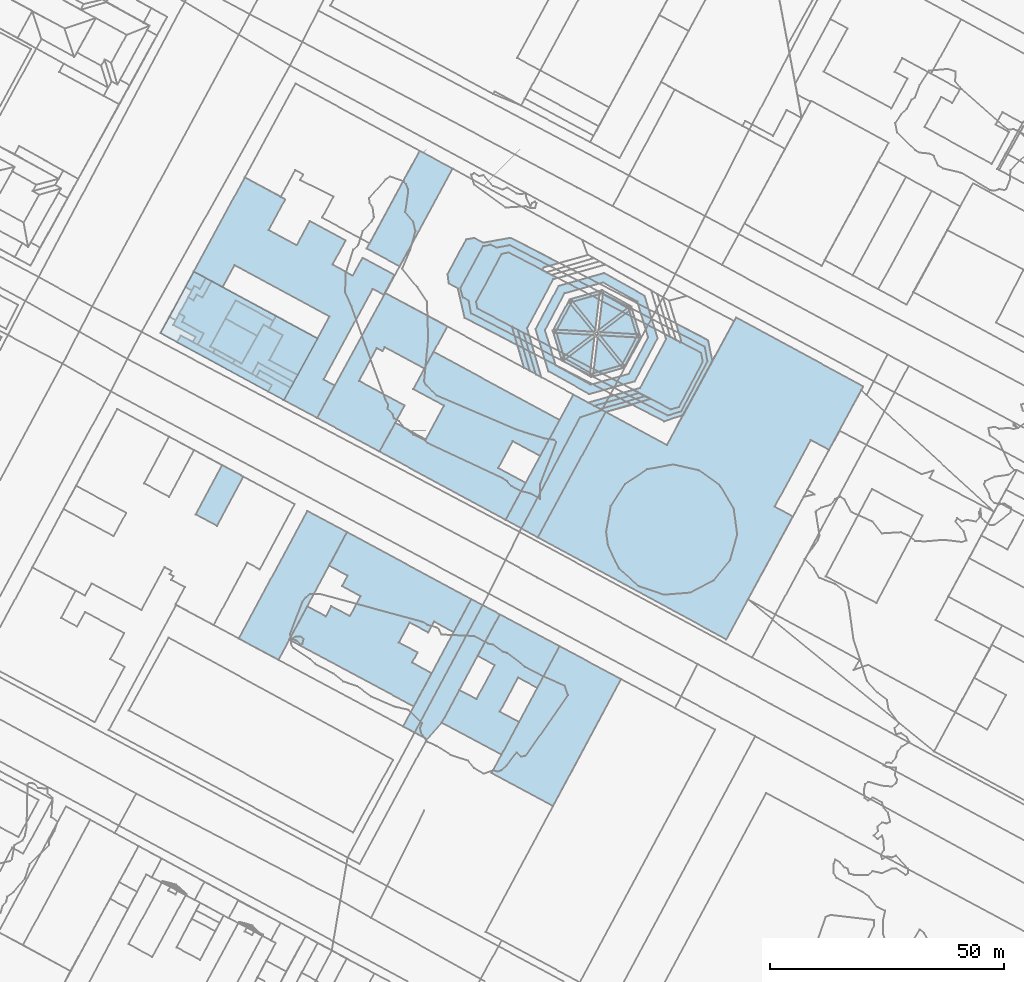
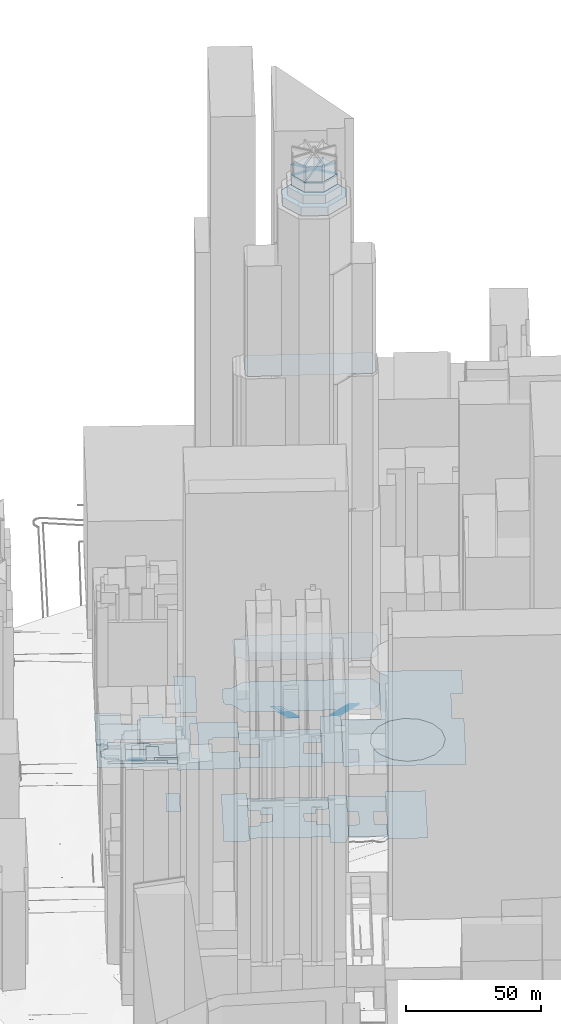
# Not in any storey, part 7 of 80: 41 footings.
"""IFC4 building model written with IfcOpenShell, lengths in metres."""

from ifc_helpers import new_model, si_unit, frame, origin_with_axes, place, context, subcontext, project, spatial, polygons, element, save


model = new_model("IFC4")

# Units and contexts
model_context = context("Model", 3, precision=1e-05, world=origin_with_axes())
body_context = subcontext(model_context, "Body", "Model", "MODEL_VIEW")
ifc_project = project(units=[si_unit("AREAUNIT", "SQUARE_METRE"), si_unit("LENGTHUNIT", "METRE")], contexts=[model_context])

# Sites, building
site_1_placement = place(None, origin_with_axes())
site_1 = spatial("IfcSite", under=ifc_project, at=site_1_placement, Name="Topoexport Site")
site_2_placement = place(site_1_placement, origin_with_axes())
site_2 = spatial("IfcSite", under=site_1, at=site_2_placement, Name="TPX_BATIMENTS")
building_1_placement = place(site_2_placement, frame((183.8820757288, 196.3915098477, 20.8609767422), z_axis=(0.0, 0.0, 1.0), x_axis=(1.0, 0.0, 0.0)))
building_1 = spatial("IfcBuilding", under=site_2, at=building_1_placement, Name="Batiment 41", CompositionType="ELEMENT")

# Footing
footing_1_placement = place(None, frame((183.8820757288, 196.3915098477, 20.8609767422), z_axis=(0.0, 0.0, 1.0), x_axis=(1.0, 0.0, 0.0)))
element("IfcFooting", 1, at=footing_1_placement, inside=building_1, Name="Sol 0", context=body_context, shape_type="Tessellation", body=[
    polygons([(0.0, 0.0, 0.0), (13.0985430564, -7.030868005, 0.0), (27.6239079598, 20.0388061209, 0.0), (14.5169569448, 27.0695500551, 0.0)], [[[2, 1, 4]], [[4, 3, 2]]]),
])

# Building
building_2_placement = place(site_2_placement, frame((164.9927892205, 206.3193932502, 19.6062191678), z_axis=(0.0, 0.0, 1.0), x_axis=(1.0, 0.0, 0.0)))
building_2 = spatial("IfcBuilding", under=site_2, at=building_2_placement, Name="Batiment 71", CompositionType="ELEMENT")

# Footing
footing_2_placement = place(None, frame((164.9927892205, 206.3193932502, 19.6062191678), z_axis=(0.0, 0.0, 1.0), x_axis=(1.0, 0.0, 0.0)))
element("IfcFooting", 2, at=footing_2_placement, inside=building_2, Name="Sol 0", context=body_context, shape_type="Tessellation", body=[
    polygons([(0.0, 0.0, 0.0), (5.0878970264, -2.7053220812, 0.0), (8.2630231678, 0.8287960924, 0.0), (20.6479519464, 23.9544415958, 0.0), (14.5577861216, 27.1921115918, 0.0)], [[[2, 1, 5]], [[4, 3, 2]], [[2, 5, 4]]]),
])

# Building
building_3_placement = place(site_2_placement, frame((173.2558123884, 207.1481893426, 18.8067512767), z_axis=(0.0, 0.0, 1.0), x_axis=(1.0, 0.0, 0.0)))
building_3 = spatial("IfcBuilding", under=site_2, at=building_3_placement, Name="Batiment 72", CompositionType="ELEMENT")

# Footing
footing_3_placement = place(None, frame((173.2558123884, 207.1481893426, 18.8067512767), z_axis=(0.0, 0.0, 1.0), x_axis=(1.0, 0.0, 0.0)))
element("IfcFooting", 3, at=footing_3_placement, inside=building_3, Name="Sol 0", context=body_context, shape_type="Tessellation", body=[
    polygons([(0.0, 0.0, 0.0), (12.733126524, -6.8241916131, 0.0), (16.475942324, 0.1582329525, 0.0), (12.3816260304, 2.3532869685, 0.0), (16.2731366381, 9.6149967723, 0.0), (20.3758905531, 7.4200430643, 0.0), (25.1432202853, 16.3128705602, 0.0), (12.3849287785, 23.1256455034, 0.0), (7.6512209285, 14.2443195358, 0.0), (11.2869121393, 12.2881807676, 0.0), (7.3952691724, 5.0375743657, 0.0), (3.742823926, 6.9824180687, 0.0)], [[[2, 1, 12]], [[4, 3, 2]], [[7, 6, 5]], [[9, 8, 7]], [[2, 12, 11]], [[9, 7, 5]], [[2, 11, 10]], [[10, 9, 5]], [[4, 2, 10]], [[10, 5, 4]]]),
])

# Building
building_4_placement = place(site_2_placement, frame((159.9721915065, 264.969762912, 19.7613864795), z_axis=(0.0, 0.0, 1.0), x_axis=(1.0, 0.0, 0.0)))
building_4 = spatial("IfcBuilding", under=site_2, at=building_4_placement, Name="Batiment 73", CompositionType="ELEMENT")

# Footing
footing_4_placement = place(None, frame((159.9721915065, 264.969762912, 19.7613864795), z_axis=(0.0, 0.0, 1.0), x_axis=(1.0, 0.0, 0.0)))
element("IfcFooting", 4, at=footing_4_placement, inside=building_4, Name="Sol 0", context=body_context, shape_type="Tessellation", body=[
    polygons([(0.0, 0.0, 0.0), (26.8862979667, -14.5533802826, 0.0), (31.1586807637, -6.6544117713, 0.0), (25.3312162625, -3.502510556, 0.0), (28.4385534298, 2.2290739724, 0.0), (34.2660149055, -0.9228247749, 0.0), (38.4143590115, 6.7526611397, 0.0), (11.5365531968, 21.3060973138, 0.0), (7.2227399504, 13.3400447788, 0.0), (13.7552421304, 9.807746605, 0.0), (9.8628457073, 2.6237495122, 0.0), (3.3387795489, 6.1561492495, 0.0)], [[[2, 1, 12]], [[4, 3, 2]], [[7, 6, 5]], [[9, 8, 7]], [[2, 12, 11]], [[9, 7, 5]], [[2, 11, 10]], [[10, 9, 5]], [[4, 2, 10]], [[10, 5, 4]]]),
])

# Building
building_5_placement = place(site_2_placement, frame((140.736043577, 224.855812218, 18.8878227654), z_axis=(0.0, 0.0, 1.0), x_axis=(1.0, 0.0, 0.0)))
building_5 = spatial("IfcBuilding", under=site_2, at=building_5_placement, Name="Batiment 74", CompositionType="ELEMENT")

# Footing
footing_5_placement = place(None, frame((140.736043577, 224.855812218, 18.8878227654), z_axis=(0.0, 0.0, 1.0), x_axis=(1.0, 0.0, 0.0)))
element("IfcFooting", 5, at=footing_5_placement, inside=building_5, Name="Sol 0", context=body_context, shape_type="Tessellation", body=[
    polygons([(0.0, 0.0, 0.0), (26.5536145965, -14.2464559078, 0.0), (30.3624164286, -7.1300469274, 0.0), (26.1831921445, -4.8915607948, 0.0), (27.3481177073, -2.7130804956, 0.0), (23.3727549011, -0.5832457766, 0.0), (25.6615651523, 3.6733168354, 0.0), (29.6369264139, 1.5434833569, 0.0), (30.8679530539, 3.8448574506, 0.0), (35.0471740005, 1.6063739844, 0.0), (38.8145317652, 8.6556926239, 0.0), (12.3027872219, 22.9358968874, 0.0), (8.4690509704, 15.7859003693, 0.0), (12.4614103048, 13.6451532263, 0.0), (11.254926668, 11.4106810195, 0.0), (15.2048295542, 9.2916463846, 0.0), (12.9161442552, 5.023986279, 0.0), (8.9662398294, 7.1430221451, 0.0), (7.801181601, 4.9756455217, 0.0), (3.8172594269, 7.11649328, 0.0)], [[[2, 1, 20]], [[4, 3, 2]], [[6, 5, 4]], [[9, 8, 7]], [[11, 10, 9]], [[13, 12, 11]], [[16, 15, 14]], [[19, 18, 17]], [[2, 20, 19]], [[6, 4, 2]], [[11, 9, 7]], [[14, 13, 11]], [[2, 19, 17]], [[14, 11, 7]], [[2, 17, 16]], [[14, 7, 6]], [[6, 2, 16]], [[16, 14, 6]]]),
])

# Building
building_6_placement = place(site_2_placement, frame((129.9536213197, 225.0858006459, 21.0283081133), z_axis=(0.0, 0.0, 1.0), x_axis=(1.0, 0.0, 0.0)))
building_6 = spatial("IfcBuilding", under=site_2, at=building_6_placement, Name="Batiment 75", CompositionType="ELEMENT")

# Footing
footing_6_placement = place(None, frame((129.9536213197, 225.0858006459, 21.0283081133), z_axis=(0.0, 0.0, 1.0), x_axis=(1.0, 0.0, 0.0)))
element("IfcFooting", 6, at=footing_6_placement, inside=building_6, Name="Sol 0", context=body_context, shape_type="Tessellation", body=[
    polygons([(0.0, 0.0, 0.0), (8.4687912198, -4.5312400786, 0.0), (23.0852094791, 22.7059084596, 0.0), (14.6163103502, 27.2482324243, 0.0)], [[[2, 1, 4]], [[4, 3, 2]]]),
])

# Building
building_7_placement = place(site_2_placement, frame((120.7569680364, 251.5799535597, 21.6785385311), z_axis=(0.0, 0.0, 1.0), x_axis=(1.0, 0.0, 0.0)))
building_7 = spatial("IfcBuilding", under=site_2, at=building_7_placement, Name="Batiment 79", CompositionType="ELEMENT")

# Footing
footing_7_placement = place(None, frame((120.7569680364, 251.5799535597, 21.6785385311), z_axis=(0.0, 0.0, 1.0), x_axis=(1.0, 0.0, 0.0)))
element("IfcFooting", 7, at=footing_7_placement, inside=building_7, Name="Sol 0", context=body_context, shape_type="Tessellation", body=[
    polygons([(0.0, 0.0, 0.0), (4.5360060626, -2.4342069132, 0.0), (10.1793614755, 8.0785806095, 0.0), (5.6434887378, 10.5016832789, 0.0)], [[[2, 1, 4]], [[4, 3, 2]]]),
])

# Building
building_8_placement = place(site_2_placement, frame((133.701994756, 280.9958944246, 22.2284312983), z_axis=(0.0, 0.0, 1.0), x_axis=(1.0, 0.0, 0.0)))
building_8 = spatial("IfcBuilding", under=site_2, at=building_8_placement, Name="Batiment 80", CompositionType="ELEMENT")

# Footing
footing_8_placement = place(None, frame((133.701994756, 280.9958944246, 22.2284312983), z_axis=(0.0, 0.0, 1.0), x_axis=(1.0, 0.0, 0.0)))
element("IfcFooting", 8, at=footing_8_placement, inside=building_8, Name="Sol 0", context=body_context, shape_type="Tessellation", body=[
    polygons([(0.0, 0.0, 0.0), (3.3046733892, -1.8045757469, 0.0), (2.5274119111, -3.2013890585, 0.0), (5.8745466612, -5.0276748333, 0.0), (7.3210219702, -2.3796322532, 0.0), (0.686095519, 1.2514244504, 0.0)], [[[2, 1, 6]], [[4, 3, 2]], [[2, 6, 5]], [[5, 4, 2]]]),
])

# Building
building_9_placement = place(site_2_placement, frame((132.7675039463, 281.5068423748, 22.0591971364), z_axis=(0.0, 0.0, 1.0), x_axis=(1.0, 0.0, 0.0)))
building_9 = spatial("IfcBuilding", under=site_2, at=building_9_placement, Name="Batiment 81", CompositionType="ELEMENT")

# Footing
footing_9_placement = place(None, frame((132.7675039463, 281.5068423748, 22.0591971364), z_axis=(0.0, 0.0, 1.0), x_axis=(1.0, 0.0, 0.0)))
element("IfcFooting", 9, at=footing_9_placement, inside=building_9, Name="Sol 0", context=body_context, shape_type="Tessellation", body=[
    polygons([(0.0, 0.0, 0.0), (0.9344908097, -0.5109479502, 0.0), (1.6205863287, 0.7404765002, 0.0), (8.2555127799, -2.8905802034, 0.0), (8.9001799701, -1.7062499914, 0.0), (1.3392038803, 2.43585198, 0.0)], [[[2, 1, 6]], [[5, 4, 3]], [[3, 2, 6]], [[6, 5, 3]]]),
])

# Building
building_10_placement = place(site_2_placement, frame((136.4219742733, 284.4691979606, 20.8510870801), z_axis=(0.0, 0.0, 1.0), x_axis=(1.0, 0.0, 0.0)))
building_10 = spatial("IfcBuilding", under=site_2, at=building_10_placement, Name="Batiment 82", CompositionType="ELEMENT")

# Footing
footing_10_placement = place(None, frame((136.4219742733, 284.4691979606, 20.8510870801), z_axis=(0.0, 0.0, 1.0), x_axis=(1.0, 0.0, 0.0)))
element("IfcFooting", 10, at=footing_10_placement, inside=building_10, Name="Sol 0", context=body_context, shape_type="Tessellation", body=[
    polygons([(0.0, 0.0, 0.0), (6.088815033, -3.1266972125, 0.0), (10.3290123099, 4.6386442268, 0.0), (1.4688163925, 9.4428815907, 0.0), (0.063512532, 6.8841359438, 0.0), (2.9178819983, 5.3296808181, 0.0)], [[[2, 1, 6]], [[4, 3, 2]], [[6, 5, 4]], [[4, 2, 6]]]),
])

# Building
building_11_placement = place(site_2_placement, frame((128.6389686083, 283.7459380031, 21.7688219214), z_axis=(0.0, 0.0, 1.0), x_axis=(1.0, 0.0, 0.0)))
building_11 = spatial("IfcBuilding", under=site_2, at=building_11_placement, Name="Batiment 83", CompositionType="ELEMENT")

# Footing
footing_11_placement = place(None, frame((128.6389686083, 283.7459380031, 21.7688219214), z_axis=(0.0, 0.0, 1.0), x_axis=(1.0, 0.0, 0.0)))
element("IfcFooting", 11, at=footing_11_placement, inside=building_11, Name="Sol 0", context=body_context, shape_type="Tessellation", body=[
    polygons([(0.0, 0.0, 0.0), (4.128535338, -2.2390956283, 0.0), (5.4677392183, 0.1967563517, 0.0), (13.0287153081, -3.9453456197, 0.0), (13.8718206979, -2.403437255, 0.0), (7.7830056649, 0.7232599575, 0.0), (10.7008876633, 6.0529407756, 0.0), (6.5976755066, 8.2923269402, 0.0), (1.9668380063, 0.0006475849, 0.0), (0.4547989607, 0.8157486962, 0.0)], [[[2, 1, 10]], [[5, 4, 3]], [[8, 7, 6]], [[2, 10, 9]], [[6, 5, 3]], [[9, 8, 6]], [[3, 2, 9]], [[9, 6, 3]]]),
])

# Building
building_12_placement = place(site_2_placement, frame((127.1263243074, 293.3318134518, 21.914507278), z_axis=(0.0, 0.0, 1.0), x_axis=(1.0, 0.0, 0.0)))
building_12 = spatial("IfcBuilding", under=site_2, at=building_12_placement, Name="Batiment 84", CompositionType="ELEMENT")

# Footing
footing_12_placement = place(None, frame((127.1263243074, 293.3318134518, 21.914507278), z_axis=(0.0, 0.0, 1.0), x_axis=(1.0, 0.0, 0.0)))
element("IfcFooting", 12, at=footing_12_placement, inside=building_12, Name="Sol 0", context=body_context, shape_type="Tessellation", body=[
    polygons([(0.0, 0.0, 0.0), (6.7281427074, -3.6632865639, 0.0), (8.1103198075, -1.2935485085, 0.0), (9.3591624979, -1.9784795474, 0.0), (10.1940852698, -0.4588713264, 0.0), (2.1408822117, 3.9106630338, 0.0)], [[[2, 1, 6]], [[5, 4, 3]], [[3, 2, 6]], [[6, 5, 3]]]),
])

# Building
building_13_placement = place(site_2_placement, frame((113.2505831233, 290.2618220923, 20.8510870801), z_axis=(0.0, 0.0, 1.0), x_axis=(1.0, 0.0, 0.0)))
building_13 = spatial("IfcBuilding", under=site_2, at=building_13_placement, Name="Batiment 85", CompositionType="ELEMENT")

# Footing
footing_13_placement = place(None, frame((113.2505831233, 290.2618220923, 20.8510870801), z_axis=(0.0, 0.0, 1.0), x_axis=(1.0, 0.0, 0.0)))
element("IfcFooting", 13, at=footing_13_placement, inside=building_13, Name="Sol 0", context=body_context, shape_type="Tessellation", body=[
    polygons([(0.0, 0.0, 0.0), (26.3259582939, -14.293602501, 0.0), (33.5004034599, -1.1539799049, 0.0), (7.1070834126, 13.1277116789, 0.0)], [[[2, 1, 4]], [[4, 3, 2]]]),
])

# Building
building_14_placement = place(site_2_placement, frame((123.8777892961, 287.3987743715, 22.3844927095), z_axis=(0.0, 0.0, 1.0), x_axis=(1.0, 0.0, 0.0)))
building_14 = spatial("IfcBuilding", under=site_2, at=building_14_placement, Name="Batiment 86", CompositionType="ELEMENT")

# Footing
footing_14_placement = place(None, frame((123.8777892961, 287.3987743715, 22.3844927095), z_axis=(0.0, 0.0, 1.0), x_axis=(1.0, 0.0, 0.0)))
element("IfcFooting", 14, at=footing_14_placement, inside=building_14, Name="Sol 0", context=body_context, shape_type="Tessellation", body=[
    polygons([(0.0, 0.0, 0.0), (6.7280173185, -3.6521887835, 0.0), (9.9766777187, 2.2697525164, 0.0), (3.2485350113, 5.9330390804, 0.0)], [[[2, 1, 4]], [[4, 3, 2]]]),
])

# Building
building_15_placement = place(site_2_placement, frame((124.4423978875, 286.0286544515, 23.0098590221), z_axis=(0.0, 0.0, 1.0), x_axis=(1.0, 0.0, 0.0)))
building_15 = spatial("IfcBuilding", under=site_2, at=building_15_placement, Name="Batiment 87", CompositionType="ELEMENT")

# Footing
footing_15_placement = place(None, frame((124.4423978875, 286.0286544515, 23.0098590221), z_axis=(0.0, 0.0, 1.0), x_axis=(1.0, 0.0, 0.0)))
element("IfcFooting", 15, at=footing_15_placement, inside=building_15, Name="Sol 0", context=body_context, shape_type="Tessellation", body=[
    polygons([(0.0, 0.0, 0.0), (4.1965707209, -2.2827164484, 0.0), (4.6513696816, -1.4669677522, 0.0), (0.4463590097, 0.8156503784, 0.0)], [[[2, 1, 4]], [[4, 3, 2]]]),
])

# Building
building_16_placement = place(site_2_placement, frame((116.8013041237, 288.3490732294, 22.6187660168), z_axis=(0.0, 0.0, 1.0), x_axis=(1.0, 0.0, 0.0)))
building_16 = spatial("IfcBuilding", under=site_2, at=building_16_placement, Name="Batiment 88", CompositionType="ELEMENT")

# Footing
footing_16_placement = place(None, frame((116.8013041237, 288.3490732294, 22.6187660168), z_axis=(0.0, 0.0, 1.0), x_axis=(1.0, 0.0, 0.0)))
element("IfcFooting", 16, at=footing_16_placement, inside=building_16, Name="Sol 0", context=body_context, shape_type="Tessellation", body=[
    polygons([(0.0, 0.0, 0.0), (19.4281025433, -10.5545678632, 0.0), (20.2053640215, -9.1577545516, 0.0), (0.7771349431, 1.4079120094, 0.0)], [[[2, 1, 4]], [[4, 3, 2]]]),
])

# Building
building_17_placement = place(site_2_placement, frame((115.9822453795, 292.0033020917, 23.3452877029), z_axis=(0.0, 0.0, 1.0), x_axis=(1.0, 0.0, 0.0)))
building_17 = spatial("IfcBuilding", under=site_2, at=building_17_placement, Name="Batiment 90", CompositionType="ELEMENT")

# Footing
footing_17_placement = place(None, frame((115.9822453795, 292.0033020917, 23.3452877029), z_axis=(0.0, 0.0, 1.0), x_axis=(1.0, 0.0, 0.0)))
element("IfcFooting", 17, at=footing_17_placement, inside=building_17, Name="Sol 0", context=body_context, shape_type="Tessellation", body=[
    polygons([(0.0, 0.0, 0.0), (4.7571032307, -2.5759699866, 0.0), (4.1786660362, -3.648506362, 0.0), (5.1896332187, -4.2029764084, 0.0), (6.4789719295, -1.8343194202, 0.0), (1.8832649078, 0.6547063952, 0.0), (2.4784536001, 1.7385394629, 0.0), (1.2720721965, 2.4017622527, 0.0)], [[[4, 3, 2]], [[8, 7, 6]], [[5, 4, 2]], [[1, 8, 6]], [[5, 2, 1]], [[1, 6, 5]]]),
])

# Building
building_18_placement = place(site_2_placement, frame((117.2543175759, 294.4050643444, 21.8182038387), z_axis=(0.0, 0.0, 1.0), x_axis=(1.0, 0.0, 0.0)))
building_18 = spatial("IfcBuilding", under=site_2, at=building_18_placement, Name="Batiment 92", CompositionType="ELEMENT")

# Footing
footing_18_placement = place(None, frame((117.2543175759, 294.4050643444, 21.8182038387), z_axis=(0.0, 0.0, 1.0), x_axis=(1.0, 0.0, 0.0)))
element("IfcFooting", 18, at=footing_18_placement, inside=building_18, Name="Sol 0", context=body_context, shape_type="Tessellation", body=[
    polygons([(0.0, 0.0, 0.0), (1.2063814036, -0.6632227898, 0.0), (0.6111927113, -1.7470558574, 0.0), (5.206899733, -4.2360816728, 0.0), (3.9175610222, -6.6047386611, 0.0), (7.1880803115, -8.3764098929, 0.0), (7.6344393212, -7.5607595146, 0.0), (6.6234717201, -7.0062899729, 0.0), (12.0128889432, 2.8374121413, 0.0), (20.0660920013, -1.532122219, 0.0), (20.6364730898, -0.4929847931, 0.0), (6.8834997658, 6.9411625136, 0.0), (4.9492373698, 3.4103780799, 0.0), (3.7259757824, 4.073404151, 0.0), (3.0481909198, 2.8331797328, 0.0), (1.8928382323, 3.4636882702, 0.0)], [[[2, 1, 16]], [[4, 3, 2]], [[6, 5, 4]], [[8, 7, 6]], [[11, 10, 9]], [[15, 14, 13]], [[2, 16, 15]], [[8, 6, 4]], [[12, 11, 9]], [[2, 15, 13]], [[9, 8, 4]], [[13, 12, 9]], [[4, 2, 13]], [[13, 9, 4]]]),
])

# Building
building_19_placement = place(site_2_placement, frame((120.3576665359, 303.3895337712, 19.1918452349), z_axis=(0.0, 0.0, 1.0), x_axis=(1.0, 0.0, 0.0)))
building_19 = spatial("IfcBuilding", under=site_2, at=building_19_placement, Name="Batiment 93", CompositionType="ELEMENT")

# Footing
footing_19_placement = place(None, frame((120.3576665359, 303.3895337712, 19.1918452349), z_axis=(0.0, 0.0, 1.0), x_axis=(1.0, 0.0, 0.0)))
element("IfcFooting", 19, at=footing_19_placement, inside=building_19, Name="Sol 0", context=body_context, shape_type="Tessellation", body=[
    polygons([(0.0, 0.0, 0.0), (6.1586360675, -3.3257392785, 0.0), (8.6958773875, 1.3444821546, 0.0), (28.9305528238, -9.6114631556, 0.0), (19.2188748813, -27.4213141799, 0.0), (26.294638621, -31.2137773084, 0.0), (30.029914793, -24.3091752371, 0.0), (27.6853086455, -23.0374588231, 0.0), (38.1557868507, -3.6977675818, 0.0), (40.5002598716, -4.9583798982, 0.0), (42.7894344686, -0.7351197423, 0.0), (36.0020774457, 2.9385544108, 0.0), (33.927701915, -0.8825259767, 0.0), (29.5868752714, 1.4651129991, 0.0), (32.3883820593, 6.6380157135, 0.0), (24.7261469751, 10.7789291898, 0.0), (21.9330768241, 5.6061274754, 0.0), (15.9697266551, 8.8342025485, 0.0), (19.5314868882, 15.4148184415, 0.0), (10.8837545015, 20.0994069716, 0.0)], [[[2, 1, 20]], [[6, 5, 4]], [[8, 7, 6]], [[11, 10, 9]], [[13, 12, 11]], [[16, 15, 14]], [[20, 19, 18]], [[3, 2, 20]], [[8, 6, 4]], [[13, 11, 9]], [[17, 16, 14]], [[3, 20, 18]], [[9, 8, 4]], [[14, 13, 9]], [[3, 18, 17]], [[9, 4, 3]], [[17, 14, 9]], [[9, 3, 17]]]),
])

# Building
building_20_placement = place(site_2_placement, frame((146.6523051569, 272.1757564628, 19.3891240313), z_axis=(0.0, 0.0, 1.0), x_axis=(1.0, 0.0, 0.0)))
building_20 = spatial("IfcBuilding", under=site_2, at=building_20_placement, Name="Batiment 94", CompositionType="ELEMENT")

# Footing
footing_20_placement = place(None, frame((146.6523051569, 272.1757564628, 19.3891240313), z_axis=(0.0, 0.0, 1.0), x_axis=(1.0, 0.0, 0.0)))
element("IfcFooting", 20, at=footing_20_placement, inside=building_20, Name="Sol 0", context=body_context, shape_type="Tessellation", body=[
    polygons([(0.0, 0.0, 0.0), (13.3198863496, -7.2059935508, 0.0), (18.6586321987, 2.6371463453, 0.0), (8.931952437, 7.9086886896, 0.0), (12.7252657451, 14.9027882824, 0.0), (13.982422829, 14.2290601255, 0.0), (14.4368310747, 15.0781131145, 0.0), (22.9062179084, 10.4914052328, 0.0), (27.7984552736, 19.5299999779, 0.0), (14.5389731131, 26.6256464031, 0.0)], [[[3, 2, 1]], [[7, 6, 5]], [[9, 8, 7]], [[4, 3, 1]], [[9, 7, 5]], [[4, 1, 10]], [[10, 9, 5]], [[5, 4, 10]]]),
])

# Building
building_21_placement = place(site_2_placement, frame((190.7505875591, 290.2965312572, 21.0925550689), z_axis=(0.0, 0.0, 1.0), x_axis=(1.0, 0.0, 0.0)))
building_21 = spatial("IfcBuilding", under=site_2, at=building_21_placement, Name="Batiment 95", CompositionType="ELEMENT")

# Footing
footing_21_placement = place(None, frame((190.7505875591, 290.2965312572, 21.0925550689), z_axis=(0.0, 0.0, 1.0), x_axis=(1.0, 0.0, 0.0)))
element("IfcFooting", 21, at=footing_21_placement, inside=building_21, Name="Sol 0", context=body_context, shape_type="Tessellation", body=[
    polygons([(0.0, 0.0, 0.0), (2.5927444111, -8.8183526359, 0.0), (3.7905656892, -9.4705605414, 0.0), (1.2400209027, -0.6517176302, 0.0)], [[[2, 1, 4]], [[4, 3, 2]]]),
])

# Building
building_22_placement = place(site_2_placement, frame((189.5021266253, 290.948150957, 21.1265616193), z_axis=(0.0, 0.0, 1.0), x_axis=(1.0, 0.0, 0.0)))
building_22 = spatial("IfcBuilding", under=site_2, at=building_22_placement, Name="Batiment 96", CompositionType="ELEMENT")

# Footing
footing_22_placement = place(None, frame((189.5021266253, 290.948150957, 21.1265616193), z_axis=(0.0, 0.0, 1.0), x_axis=(1.0, 0.0, 0.0)))
element("IfcFooting", 22, at=footing_22_placement, inside=building_22, Name="Sol 0", context=body_context, shape_type="Tessellation", body=[
    polygons([(0.0, 0.0, 0.0), (2.5839152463, -8.7851489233, 0.0), (3.8412053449, -9.4699723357, 0.0), (1.2484609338, -0.6516196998, 0.0)], [[[2, 1, 4]], [[4, 3, 2]]]),
])

# Building
building_23_placement = place(site_2_placement, frame((188.2449675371, 291.6218742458, 21.1651408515), z_axis=(0.0, 0.0, 1.0), x_axis=(1.0, 0.0, 0.0)))
building_23 = spatial("IfcBuilding", under=site_2, at=building_23_placement, Name="Batiment 97", CompositionType="ELEMENT")

# Footing
footing_23_placement = place(None, frame((188.2449675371, 291.6218742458, 21.1651408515), z_axis=(0.0, 0.0, 1.0), x_axis=(1.0, 0.0, 0.0)))
element("IfcFooting", 23, at=footing_23_placement, inside=building_23, Name="Sol 0", context=body_context, shape_type="Tessellation", body=[
    polygons([(0.0, 0.0, 0.0), (2.5839135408, -8.7851493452, 0.0), (3.8410743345, -9.4588722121, 0.0), (1.2571590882, -0.6737232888, 0.0)], [[[2, 1, 4]], [[4, 3, 2]]]),
])

# Building
building_24_placement = place(site_2_placement, frame((204.4971683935, 275.4350208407, 21.6849039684), z_axis=(0.0, 0.0, 1.0), x_axis=(1.0, 0.0, 0.0)))
building_24 = spatial("IfcBuilding", under=site_2, at=building_24_placement, Name="Batiment 104", CompositionType="ELEMENT")

# Footing
footing_24_placement = place(None, frame((204.4971683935, 275.4350208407, 21.6849039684), z_axis=(0.0, 0.0, 1.0), x_axis=(1.0, 0.0, 0.0)))
element("IfcFooting", 24, at=footing_24_placement, inside=building_24, Name="Sol 0", context=body_context, shape_type="Tessellation", body=[
    polygons([(0.0, 0.0, 0.0), (1.2741729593, -0.6846250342, 0.0), (10.7814669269, 2.0238691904, 0.0), (9.490542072, 2.6971955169, 0.0)], [[[2, 1, 4]], [[4, 3, 2]]]),
])

# Building
building_25_placement = place(site_2_placement, frame((205.7713413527, 274.7503958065, 21.7965636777), z_axis=(0.0, 0.0, 1.0), x_axis=(1.0, 0.0, 0.0)))
building_25 = spatial("IfcBuilding", under=site_2, at=building_25_placement, Name="Batiment 105", CompositionType="ELEMENT")

# Footing
footing_25_placement = place(None, frame((205.7713413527, 274.7503958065, 21.7965636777), z_axis=(0.0, 0.0, 1.0), x_axis=(1.0, 0.0, 0.0)))
element("IfcFooting", 25, at=footing_25_placement, inside=building_25, Name="Sol 0", context=body_context, shape_type="Tessellation", body=[
    polygons([(0.0, 0.0, 0.0), (1.2572926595, -0.6848211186, 0.0), (10.7897787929, 2.0350699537, 0.0), (9.5072939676, 2.7084942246, 0.0)], [[[2, 1, 4]], [[4, 3, 2]]]),
])

# Building
building_26_placement = place(site_2_placement, frame((207.0286340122, 274.0655746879, 21.8143831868), z_axis=(0.0, 0.0, 1.0), x_axis=(1.0, 0.0, 0.0)))
building_26 = spatial("IfcBuilding", under=site_2, at=building_26_placement, Name="Batiment 106", CompositionType="ELEMENT")

# Footing
footing_26_placement = place(None, frame((207.0286340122, 274.0655746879, 21.8143831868), z_axis=(0.0, 0.0, 1.0), x_axis=(1.0, 0.0, 0.0)))
element("IfcFooting", 26, at=footing_26_placement, inside=building_26, Name="Sol 0", context=body_context, shape_type="Tessellation", body=[
    polygons([(0.0, 0.0, 0.0), (1.1722447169, -0.630298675, 0.0), (10.6620135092, 2.1335061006, 0.0), (9.5324861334, 2.7198910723, 0.0)], [[[2, 1, 4]], [[4, 3, 2]]]),
])

# Building
building_27_placement = place(site_2_placement, frame((193.2816809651, 291.1364254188, 247.2874462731), z_axis=(0.0, 0.0, 1.0), x_axis=(1.0, 0.0, 0.0)))
building_27 = spatial("IfcBuilding", under=site_2, at=building_27_placement, Name="Batiment 108", CompositionType="ELEMENT")

# Footing
footing_27_placement = place(None, frame((193.2816809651, 291.1364254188, 247.2874462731), z_axis=(0.0, 0.0, 1.0), x_axis=(1.0, 0.0, 0.0)))
element("IfcFooting", 27, at=footing_27_placement, inside=building_27, Name="Sol 0", context=body_context, shape_type="Tessellation", body=[
    polygons([(0.0, 0.0, 0.0), (2.7471243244, -9.0274996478, 0.0), (11.4476540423, -13.8890368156, 0.0), (21.1319324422, -11.1562809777, 0.0), (26.0391907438, -1.9620488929, 0.0), (23.2920400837, 7.0654426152, 0.0), (14.5913971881, 11.9380665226, 0.0), (4.9071471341, 9.2053187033, 0.0)], [[[2, 1, 8]], [[4, 3, 2]], [[6, 5, 4]], [[8, 7, 6]], [[4, 2, 8]], [[8, 6, 4]]]),
])

# Building
building_28_placement = place(site_2_placement, frame((200.4835497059, 296.8268073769, 260.0739856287), z_axis=(0.0, 0.0, 1.0), x_axis=(1.0, 0.0, 0.0)))
building_28 = spatial("IfcBuilding", under=site_2, at=building_28_placement, Name="Batiment 109", CompositionType="ELEMENT")

# Footing
footing_28_placement = place(None, frame((200.4835497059, 296.8268073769, 260.0739856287), z_axis=(0.0, 0.0, 1.0), x_axis=(1.0, 0.0, 0.0)))
element("IfcFooting", 28, at=footing_28_placement, inside=building_28, Name="Sol 0", context=body_context, shape_type="Tessellation", body=[
    polygons([(0.0, 0.0, 0.0), (11.1849786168, -13.8032627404, 0.0), (11.7370008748, -13.3638547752, 0.0), (0.5434525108, 0.450409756, 0.0)], [[[2, 1, 4]], [[4, 3, 2]]]),
])

# Building
building_29_placement = place(site_2_placement, frame((198.9155746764, 285.0290795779, 259.6639688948), z_axis=(0.0, 0.0, 1.0), x_axis=(1.0, 0.0, 0.0)))
building_29 = spatial("IfcBuilding", under=site_2, at=building_29_placement, Name="Batiment 110", CompositionType="ELEMENT")

# Footing
footing_29_placement = place(None, frame((198.9155746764, 285.0290795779, 259.6639688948), z_axis=(0.0, 0.0, 1.0), x_axis=(1.0, 0.0, 0.0)))
element("IfcFooting", 29, at=footing_29_placement, inside=building_29, Name="Sol 0", context=body_context, shape_type="Tessellation", body=[
    polygons([(0.0, 0.0, 0.0), (0.4284669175, -0.5501306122, 0.0), (14.5773925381, 10.2392690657, 0.0), (14.1487960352, 10.8004996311, 0.0)], [[[2, 1, 4]], [[4, 3, 2]]]),
])

# Building
building_30_placement = place(site_2_placement, frame((197.6677213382, 290.7100275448, 259.7077898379), z_axis=(0.0, 0.0, 1.0), x_axis=(1.0, 0.0, 0.0)))
building_30 = spatial("IfcBuilding", under=site_2, at=building_30_placement, Name="Batiment 111", CompositionType="ELEMENT")

# Footing
footing_30_placement = place(None, frame((197.6677213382, 290.7100275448, 259.7077898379), z_axis=(0.0, 0.0, 1.0), x_axis=(1.0, 0.0, 0.0)))
element("IfcFooting", 30, at=footing_30_placement, inside=building_30, Name="Sol 0", context=body_context, shape_type="Tessellation", body=[
    polygons([(0.0, 0.0, 0.0), (1.7900951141, -5.8522788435, 0.0), (7.5763793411, -9.0934656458, 0.0), (13.9625274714, -7.2983490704, 0.0), (17.2671074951, -1.1092659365, 0.0), (15.47687195, 4.7541101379, 0.0), (9.6905946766, 7.9952907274, 0.0), (3.3045880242, 6.1890768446, 0.0)], [[[2, 1, 8]], [[4, 3, 2]], [[6, 5, 4]], [[8, 7, 6]], [[4, 2, 8]], [[8, 6, 4]]]),
])

# Building
building_31_placement = place(site_2_placement, frame((197.3599497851, 290.3178698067, 260.1111568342), z_axis=(0.0, 0.0, 1.0), x_axis=(1.0, 0.0, 0.0)))
building_31 = spatial("IfcBuilding", under=site_2, at=building_31_placement, Name="Batiment 112", CompositionType="ELEMENT")

# Footing
footing_31_placement = place(None, frame((197.3599497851, 290.3178698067, 260.1111568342), z_axis=(0.0, 0.0, 1.0), x_axis=(1.0, 0.0, 0.0)))
element("IfcFooting", 31, at=footing_31_placement, inside=building_31, Name="Sol 0", context=body_context, shape_type="Tessellation", body=[
    polygons([(0.0, 0.0, 0.0), (17.7976823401, -1.0031756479, 0.0), (17.8317499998, -0.3033371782, 0.0), (0.0425095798, 0.6999365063, 0.0)], [[[2, 1, 4]], [[4, 3, 2]]]),
])

# Building
building_32_placement = place(site_2_placement, frame((196.9493964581, 290.7793907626, 255.631798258), z_axis=(0.0, 0.0, 1.0), x_axis=(1.0, 0.0, 0.0)))
building_32 = spatial("IfcBuilding", under=site_2, at=building_32_placement, Name="Batiment 113", CompositionType="ELEMENT")

# Footing
footing_32_placement = place(None, frame((196.9493964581, 290.7793907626, 255.631798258), z_axis=(0.0, 0.0, 1.0), x_axis=(1.0, 0.0, 0.0)))
element("IfcFooting", 32, at=footing_32_placement, inside=building_32, Name="Sol 0", context=body_context, shape_type="Tessellation", body=[
    polygons([(0.0, 0.0, 0.0), (1.9480859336, -6.3722479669, 0.0), (8.2102521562, -9.8854576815, 0.0), (15.134770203, -7.9286484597, 0.0), (18.7037575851, -1.2479906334, 0.0), (16.7555291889, 5.1353539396, 0.0), (10.4935002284, 8.6374556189, 0.0), (3.5688676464, 6.6917512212, 0.0)], [[[2, 1, 8]], [[4, 3, 2]], [[6, 5, 4]], [[8, 7, 6]], [[4, 2, 8]], [[8, 6, 4]]]),
])

# Building
building_33_placement = place(site_2_placement, frame((174.515196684, 302.8642732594, 21.3701181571), z_axis=(0.0, 0.0, 1.0), x_axis=(1.0, 0.0, 0.0)))
building_33 = spatial("IfcBuilding", under=site_2, at=building_33_placement, Name="Batiment 118", CompositionType="ELEMENT")

# Footing
footing_33_placement = place(None, frame((174.515196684, 302.8642732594, 21.3701181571), z_axis=(0.0, 0.0, 1.0), x_axis=(1.0, 0.0, 0.0)))
element("IfcFooting", 33, at=footing_33_placement, inside=building_33, Name="Sol 0", context=body_context, shape_type="Tessellation", body=[
    polygons([(0.0, 0.0, 0.0), (0.2596837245, -2.0064896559, 0.0), (2.2055322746, -3.1051971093, 0.0), (3.6457642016, -9.3612290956, 0.0), (46.1429906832, -31.4157509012, 0.0), (50.1375301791, -30.1147343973, 0.0), (56.4684852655, -18.4947444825, 0.0), (55.6076025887, -14.152673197, 0.0), (13.4416773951, 7.7280088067, 0.0), (7.5533148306, 6.6825504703, 0.0), (5.6591417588, 7.693039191, 0.0), (3.9490017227, 7.3956015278, 0.0)], [[[2, 1, 12]], [[5, 4, 3]], [[7, 6, 5]], [[9, 8, 7]], [[12, 11, 10]], [[3, 2, 12]], [[7, 5, 3]], [[10, 9, 7]], [[3, 12, 10]], [[10, 7, 3]]]),
])

# Building
building_34_placement = place(site_2_placement, frame((177.2431205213, 299.8428648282, 43.5388270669), z_axis=(0.0, 0.0, 1.0), x_axis=(1.0, 0.0, 0.0)))
building_34 = spatial("IfcBuilding", under=site_2, at=building_34_placement, Name="Batiment 119", CompositionType="ELEMENT")

# Footing
footing_34_placement = place(None, frame((177.2431205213, 299.8428648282, 43.5388270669), z_axis=(0.0, 0.0, 1.0), x_axis=(1.0, 0.0, 0.0)))
element("IfcFooting", 34, at=footing_34_placement, inside=building_34, Name="Sol 0", context=body_context, shape_type="Tessellation", body=[
    polygons([(0.0, 0.0, 0.0), (0.5291270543, -1.9478459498, 0.0), (1.7866712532, -2.6548732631, 0.0), (2.2654927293, -5.358257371, 0.0), (44.1689292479, -27.1643259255, 0.0), (47.0793212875, -26.2756005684, 0.0), (52.7120119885, -15.5852207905, 0.0), (52.1358092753, -12.4943931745, 0.0), (10.4871850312, 9.1813647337, 0.0), (7.7499180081, 8.6499384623, 0.0), (6.3919957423, 9.2780819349, 0.0), (4.8257265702, 8.9490093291, 0.0)], [[[2, 1, 12]], [[5, 4, 3]], [[7, 6, 5]], [[9, 8, 7]], [[12, 11, 10]], [[3, 2, 12]], [[7, 5, 3]], [[10, 9, 7]], [[3, 12, 10]], [[10, 7, 3]]]),
])

# Building
building_35_placement = place(site_2_placement, frame((180.6026452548, 296.9509249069, 171.5778831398), z_axis=(0.0, 0.0, 1.0), x_axis=(1.0, 0.0, 0.0)))
building_35 = spatial("IfcBuilding", under=site_2, at=building_35_placement, Name="Batiment 120", CompositionType="ELEMENT")

# Footing
footing_35_placement = place(None, frame((180.6026452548, 296.9509249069, 171.5778831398), z_axis=(0.0, 0.0, 1.0), x_axis=(1.0, 0.0, 0.0)))
element("IfcFooting", 35, at=footing_35_placement, inside=building_35, Name="Sol 0", context=body_context, shape_type="Tessellation", body=[
    polygons([(0.0, 0.0, 0.0), (0.2620602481, -1.4846557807, 0.0), (41.5201615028, -22.9651549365, 0.0), (43.2446066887, -22.4454958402, 0.0), (48.3487420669, -12.7604679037, 0.0), (47.9978790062, -10.8993697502, 0.0), (6.8926514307, 10.5051540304, 0.0), (5.3850764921, 10.2100697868, 0.0)], [[[2, 1, 8]], [[4, 3, 2]], [[6, 5, 4]], [[8, 7, 6]], [[4, 2, 8]], [[8, 6, 4]]]),
])

# Building
building_36_placement = place(site_2_placement, frame((186.8584894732, 250.4163826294, 21.3845065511), z_axis=(0.0, 0.0, 1.0), x_axis=(1.0, 0.0, 0.0)))
building_36 = spatial("IfcBuilding", under=site_2, at=building_36_placement, Name="Batiment 121", CompositionType="ELEMENT")

# Footing
footing_36_placement = place(None, frame((186.8584894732, 250.4163826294, 21.3845065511), z_axis=(0.0, 0.0, 1.0), x_axis=(1.0, 0.0, 0.0)))
element("IfcFooting", 36, at=footing_36_placement, inside=building_36, Name="Sol 0", context=body_context, shape_type="Tessellation", body=[
    polygons([(0.0, 0.0, 0.0), (6.8724714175, -3.7281693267, 0.0), (21.3423892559, 23.0188933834, 0.0), (14.4700635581, 26.7359484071, 0.0)], [[[2, 1, 4]], [[4, 3, 2]]]),
])

# Building
building_37_placement = place(site_2_placement, frame((208.3375568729, 247.8905716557, 20.825107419), z_axis=(0.0, 0.0, 1.0), x_axis=(1.0, 0.0, 0.0)))
building_37 = spatial("IfcBuilding", under=site_2, at=building_37_placement, Name="Batiment 122", CompositionType="ELEMENT")

# Footing
footing_37_placement = place(None, frame((208.3375568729, 247.8905716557, 20.825107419), z_axis=(0.0, 0.0, 1.0), x_axis=(1.0, 0.0, 0.0)))
element("IfcFooting", 37, at=footing_37_placement, inside=building_37, Name="Sol 0", context=body_context, shape_type="Tessellation", body=[
    polygons([(0.0, 0.0, 0.0), (0.3701435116, -2.7934642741, 0.0), (2.7424292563, -7.8951187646, 0.0), (6.9390853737, -11.6321820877, 0.0), (12.2781734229, -13.435265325, 0.0), (17.8949044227, -12.9813571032, 0.0), (22.8786233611, -10.3587654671, 0.0), (26.4239639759, -5.9987460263, 0.0), (27.9565517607, -0.5963225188, 0.0), (27.2249428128, 4.9685003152, 0.0), (24.3493255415, 9.7978381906, 0.0), (19.7863353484, 13.0976424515, 0.0), (14.2932254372, 14.3549177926, 0.0), (8.7506217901, 13.3356587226, 0.0), (4.0595645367, 10.2279804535, 0.0), (0.973996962, 5.5291486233, 0.0)], [[[2, 1, 16]], [[4, 3, 2]], [[6, 5, 4]], [[8, 7, 6]], [[10, 9, 8]], [[12, 11, 10]], [[14, 13, 12]], [[16, 15, 14]], [[4, 2, 16]], [[8, 6, 4]], [[12, 10, 8]], [[16, 14, 12]], [[8, 4, 16]], [[16, 12, 8]]]),
])

# Building
building_38_placement = place(site_2_placement, frame((193.7309608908, 246.6882133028, 19.7595905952), z_axis=(0.0, 0.0, 1.0), x_axis=(1.0, 0.0, 0.0)))
building_38 = spatial("IfcBuilding", under=site_2, at=building_38_placement, Name="Batiment 123", CompositionType="ELEMENT")

# Footing
footing_38_placement = place(None, frame((193.7309608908, 246.6882133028, 19.7595905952), z_axis=(0.0, 0.0, 1.0), x_axis=(1.0, 0.0, 0.0)))
element("IfcFooting", 38, at=footing_38_placement, inside=building_38, Name="Sol 0", context=body_context, shape_type="Tessellation", body=[
    polygons([(0.0, 0.0, 0.0), (40.2234747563, -21.7700261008, 0.0), (54.4125243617, 4.4409408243, 0.0), (50.5303832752, 6.5385106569, 0.0), (58.2323186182, 20.7612951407, 0.0), (62.1144547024, 18.6637293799, 0.0), (69.4444224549, 32.2049607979, 0.0), (42.2947416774, 46.899331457, 0.0), (27.5521167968, 19.6605385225, 0.0), (14.4699178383, 26.7470627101, 0.0)], [[[2, 1, 10]], [[4, 3, 2]], [[7, 6, 5]], [[9, 8, 7]], [[2, 10, 9]], [[9, 7, 5]], [[4, 2, 9]], [[9, 5, 4]]]),
])

# Building
building_39_placement = place(site_2_placement, frame((157.2485817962, 308.2924157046, 19.5637782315), z_axis=(0.0, 0.0, 1.0), x_axis=(1.0, 0.0, 0.0)))
building_39 = spatial("IfcBuilding", under=site_2, at=building_39_placement, Name="Batiment 260", CompositionType="ELEMENT")

# Footing
footing_39_placement = place(None, frame((157.2485817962, 308.2924157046, 19.5637782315), z_axis=(0.0, 0.0, 1.0), x_axis=(1.0, 0.0, 0.0)))
element("IfcFooting", 39, at=footing_39_placement, inside=building_39, Name="Sol 0", context=body_context, shape_type="Tessellation", body=[
    polygons([(0.0, 0.0, 0.0), (7.0337999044, -3.8151381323, 0.0), (18.3222304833, 17.0439945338, 0.0), (11.288572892, 20.8480210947, 0.0)], [[[2, 1, 4]], [[4, 3, 2]]]),
])

# Building
building_40_placement = place(site_2_placement, frame((118.5811882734, 300.0826284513, 23.3439021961), z_axis=(0.0, 0.0, 1.0), x_axis=(1.0, 0.0, 0.0)))
building_40 = spatial("IfcBuilding", under=site_2, at=building_40_placement, Name="Batiment 321", CompositionType="ELEMENT")

# Footing
footing_40_placement = place(None, frame((118.5811882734, 300.0826284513, 23.3439021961), z_axis=(0.0, 0.0, 1.0), x_axis=(1.0, 0.0, 0.0)))
element("IfcFooting", 40, at=footing_40_placement, inside=building_40, Name="Sol 0", context=body_context, shape_type="Tessellation", body=[
    polygons([(0.0, 0.0, 0.0), (1.3506384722, -0.7281601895, 0.0), (1.8710248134, 0.2548837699, 0.0), (3.0602671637, -0.3863330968, 0.0), (4.3418081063, 1.9267222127, 0.0), (1.7764782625, 3.3069053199, 0.0)], [[[2, 1, 6]], [[5, 4, 3]], [[3, 2, 6]], [[6, 5, 3]]]),
])

# Building
building_41_placement = place(site_2_placement, frame((119.1471558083, 297.8687526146, 23.2334152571), z_axis=(0.0, 0.0, 1.0), x_axis=(1.0, 0.0, 0.0)))
building_41 = spatial("IfcBuilding", under=site_2, at=building_41_placement, Name="Batiment 322", CompositionType="ELEMENT")

# Footing
footing_41_placement = place(None, frame((119.1471558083, 297.8687526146, 23.2334152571), z_axis=(0.0, 0.0, 1.0), x_axis=(1.0, 0.0, 0.0)))
element("IfcFooting", 41, at=footing_41_placement, inside=building_41, Name="Sol 0", context=body_context, shape_type="Tessellation", body=[
    polygons([(0.0, 0.0, 0.0), (1.1553526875, -0.6305085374, 0.0), (1.83313755, 0.6097158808, 0.0), (3.0563991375, -0.0533101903, 0.0), (4.9906615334, 3.4774742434, 0.0), (3.7758405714, 4.1405980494, 0.0), (2.4942996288, 1.8275427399, 0.0), (1.3050572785, 2.4687596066, 0.0)], [[[2, 1, 8]], [[5, 4, 3]], [[7, 6, 5]], [[2, 8, 7]], [[7, 5, 3]], [[3, 2, 7]]]),
])

save(model, "model.ifc")
